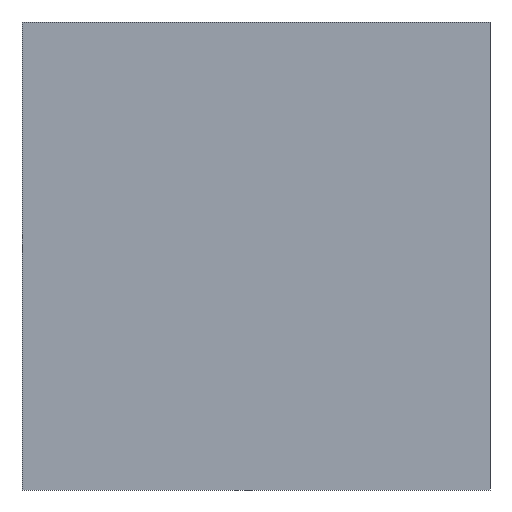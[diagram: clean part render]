
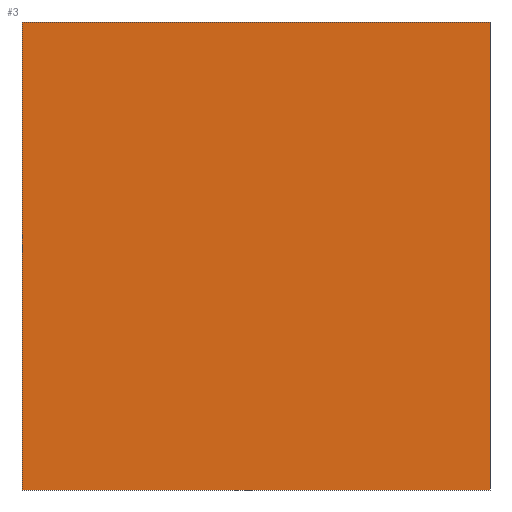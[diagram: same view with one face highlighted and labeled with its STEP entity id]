
A CAD part, front view. The second image highlights one B-rep face of the part: STEP entity #3.
In plain terms, the highlighted planar face has unit normal (0, -1, 0).
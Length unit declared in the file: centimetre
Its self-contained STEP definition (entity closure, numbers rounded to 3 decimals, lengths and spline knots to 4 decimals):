
#2 = LINE ( 'NONE', #140, #101 ) ;
#3 = ADVANCED_FACE ( 'NONE', ( #366 ), #209, .F. ) ;
#4 = VERTEX_POINT ( 'NONE', #276 ) ;
#6 = LINE ( 'NONE', #313, #37 ) ;
#9 = DIRECTION ( 'NONE',  ( 0., 0., -1. ) ) ;
#18 = VERTEX_POINT ( 'NONE', #41 ) ;
#37 = VECTOR ( 'NONE', #9, 100. ) ;
#41 = CARTESIAN_POINT ( 'NONE',  ( 1000., 0., 1000. ) ) ;
#46 = EDGE_CURVE ( 'NONE', #331, #18, #346, .T. ) ;
#48 = DIRECTION ( 'NONE',  ( 1., 0., 0. ) ) ;
#63 = CARTESIAN_POINT ( 'NONE',  ( 0., 0., 0. ) ) ;
#82 = EDGE_CURVE ( 'NONE', #331, #138, #6, .T. ) ;
#101 = VECTOR ( 'NONE', #312, 100. ) ;
#116 = DIRECTION ( 'NONE',  ( 0., 0., 1. ) ) ;
#138 = VERTEX_POINT ( 'NONE', #63 ) ;
#140 = CARTESIAN_POINT ( 'NONE',  ( 1000., 0., 1000. ) ) ;
#161 = ORIENTED_EDGE ( 'NONE', *, *, #281, .F. ) ;
#176 = DIRECTION ( 'NONE',  ( 1., 0., 0. ) ) ;
#184 = VECTOR ( 'NONE', #176, 100. ) ;
#209 = PLANE ( 'NONE',  #357 ) ;
#215 = VECTOR ( 'NONE', #48, 100. ) ;
#218 = LINE ( 'NONE', #388, #215 ) ;
#243 = DIRECTION ( 'NONE',  ( 0., 1., 0. ) ) ;
#249 = ORIENTED_EDGE ( 'NONE', *, *, #46, .F. ) ;
#268 = EDGE_LOOP ( 'NONE', ( #358, #161, #249, #324 ) ) ;
#270 = CARTESIAN_POINT ( 'NONE',  ( 0., 0., 1000. ) ) ;
#276 = CARTESIAN_POINT ( 'NONE',  ( 1000., 0., 0. ) ) ;
#281 = EDGE_CURVE ( 'NONE', #18, #4, #2, .T. ) ;
#312 = DIRECTION ( 'NONE',  ( 0., 0., -1. ) ) ;
#313 = CARTESIAN_POINT ( 'NONE',  ( 0., 0., 1000. ) ) ;
#324 = ORIENTED_EDGE ( 'NONE', *, *, #82, .T. ) ;
#331 = VERTEX_POINT ( 'NONE', #384 ) ;
#342 = CARTESIAN_POINT ( 'NONE',  ( 0., 0., 1000. ) ) ;
#346 = LINE ( 'NONE', #270, #184 ) ;
#357 = AXIS2_PLACEMENT_3D ( 'NONE', #342, #243, #116 ) ;
#358 = ORIENTED_EDGE ( 'NONE', *, *, #425, .T. ) ;
#366 = FACE_OUTER_BOUND ( 'NONE', #268, .T. ) ;
#384 = CARTESIAN_POINT ( 'NONE',  ( 0., 0., 1000. ) ) ;
#388 = CARTESIAN_POINT ( 'NONE',  ( 0., 0., 0. ) ) ;
#425 = EDGE_CURVE ( 'NONE', #138, #4, #218, .T. ) ;
